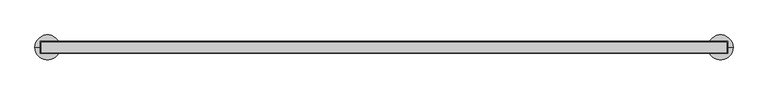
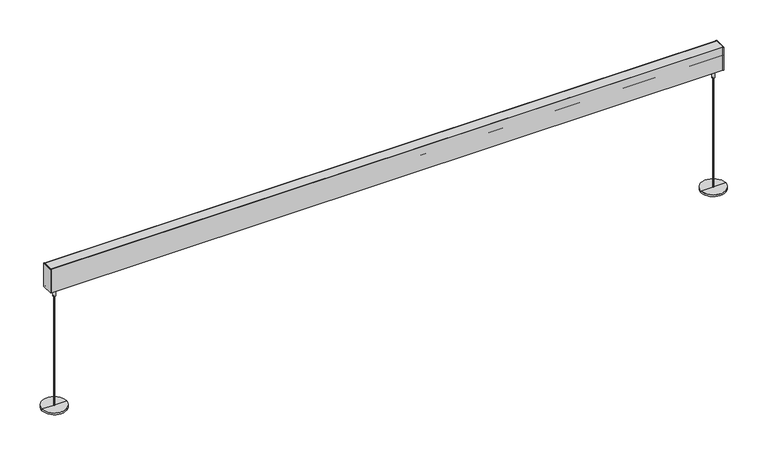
"""IFC4 building model written with IfcOpenShell, lengths in millimetres: light fixture geometry, Lighting_Fixture-Focal_Point-AirCore_Bridge-Seem_1_LED : FSM1SBW125LF30K1CUNVLD1J24_."""

from ifc_helpers import new_model, si_unit, frame, origin, place, context, project, spatial, polyline, circle_curve, outline, extrude, faceted_brep, source, transform, mapped, element, save
from ifc_brep_helpers import plane_surface, cylinder_surface, advanced_brep


def light_fixture_63af7253(model_context):
    return source(origin(), model_context, "Body", "SolidModel", [
        advanced_brep(
        [(1195.9602631, 0.0, 6.35), (1191.6397369, 0.0, 6.35), (1191.6397369, 0.0, 426.1929436), (1195.9602631, 0.0, 426.1929436), (1198.4304584, 0.0, 464.8870305), (1189.1695416, 0.0, 464.8870305), (1193.8, 0.0, 464.8870305), (1198.4304584, 0.0, 426.1929436), (1189.1695416, 0.0, 426.1929436), (1238.25, 0.0, 6.35), (1149.35, 0.0, 6.35), (1238.25, 0.0, 0.0), (1149.35, 0.0, 0.0), (1193.8, 0.0, 0.0)],
        [
            (0, 1, circle_curve(frame((1193.8, 0.0, 6.35), z_axis=(0.0, 0.0, 1.0), x_axis=(-1.0, 0.0, 0.0)), 2.1602631)),
            (1, 2),
            (2, 3, circle_curve(frame((1193.8, 0.0, 426.1929436), z_axis=(0.0, 0.0, -1.0), x_axis=(-1.0, 0.0, 0.0)), 2.1602631)),
            (3, 0),
            (1, 0, circle_curve(frame((1193.8, 0.0, 6.35), z_axis=(0.0, 0.0, 1.0), x_axis=(-1.0, 0.0, 0.0)), 2.1602631)),
            (3, 2, circle_curve(frame((1193.8, 0.0, 426.1929436), z_axis=(0.0, 0.0, -1.0), x_axis=(-1.0, 0.0, 0.0)), 2.1602631)),
            (4, 5, circle_curve(frame((1193.8, 0.0, 464.8870305), z_axis=(0.0, 0.0, 1.0), x_axis=(-1.0, 0.0, 0.0)), 4.6304584)),
            (5, 6),
            (6, 4),
            (5, 4, circle_curve(frame((1193.8, 0.0, 464.8870305), z_axis=(0.0, 0.0, 1.0), x_axis=(-1.0, 0.0, 0.0)), 4.6304584)),
            (7, 8, circle_curve(frame((1193.8, 0.0, 426.1929436), z_axis=(0.0, 0.0, 1.0), x_axis=(-1.0, 0.0, 0.0)), 4.6304584)),
            (8, 5),
            (4, 7),
            (8, 7, circle_curve(frame((1193.8, 0.0, 426.1929436), z_axis=(0.0, 0.0, 1.0), x_axis=(-1.0, 0.0, 0.0)), 4.6304584)),
            (2, 8),
            (7, 3),
            (9, 10, circle_curve(frame((1193.8, 0.0, 6.35), z_axis=(0.0, 0.0, 1.0), x_axis=(-1.0, 0.0, 0.0)), 44.45)),
            (10, 1),
            (0, 9),
            (10, 9, circle_curve(frame((1193.8, 0.0, 6.35), z_axis=(0.0, 0.0, 1.0), x_axis=(-1.0, 0.0, 0.0)), 44.45)),
            (11, 12, circle_curve(frame((1193.8, 0.0, 0.0), z_axis=(0.0, 0.0, 1.0), x_axis=(-1.0, 0.0, 0.0)), 44.45)),
            (12, 10),
            (9, 11),
            (12, 11, circle_curve(frame((1193.8, 0.0, 0.0), z_axis=(0.0, 0.0, 1.0), x_axis=(-1.0, 0.0, 0.0)), 44.45)),
            (13, 12),
            (11, 13),
        ],
        [
            cylinder_surface(frame((1193.8, 0.0, 861.1679436), z_axis=(0.0, 0.0, -1.0), x_axis=(-1.0, 0.0, 0.0)), 2.1602631),
            plane_surface(frame((1193.8, 0.0, 464.8870305), z_axis=(0.0, 0.0, 1.0), x_axis=(-1.0, 0.0, 0.0))),
            cylinder_surface(frame((1193.8, 0.0, 861.1679436), z_axis=(0.0, 0.0, -1.0), x_axis=(-1.0, 0.0, 0.0)), 4.6304584),
            plane_surface(frame((1193.8, 0.0, 426.1929436), z_axis=(0.0, 0.0, -1.0), x_axis=(-1.0, 0.0, 0.0))),
            plane_surface(frame((1193.8, 0.0, 6.35), z_axis=(0.0, 0.0, 1.0), x_axis=(-1.0, 0.0, 0.0))),
            cylinder_surface(frame((1193.8, 0.0, 861.1679436), z_axis=(0.0, 0.0, -1.0), x_axis=(-1.0, 0.0, 0.0)), 44.45),
            plane_surface(frame((1193.8, 0.0, 0.0), z_axis=(0.0, 0.0, -1.0), x_axis=(-1.0, 0.0, 0.0))),
        ],
        [
            (0, [[1, 2, 3, 4]]),
            (0, [[5, -4, 6, -2]]),
            (1, [[7, 8, 9]]),
            (1, [[10, -9, -8]]),
            (2, [[11, 12, -7, 13]]),
            (2, [[14, -13, -10, -12]]),
            (3, [[-3, 15, -11, 16]]),
            (3, [[-6, -16, -14, -15]]),
            (4, [[17, 18, -1, 19]]),
            (4, [[20, -19, -5, -18]]),
            (5, [[21, 22, -17, 23]]),
            (5, [[24, -23, -20, -22]]),
            (6, [[25, -21, 26]]),
            (6, [[-26, -24, -25]]),
        ],
    ),
        faceted_brep([(-1216.5759239, 18.258255, 531.2980748), (-1216.5759239, 15.7110021, 527.9177561), (-1216.5759239, 14.4431682, 528.8731375), (-1216.5759239, 17.0442657, 532.3249104), (-1216.5759239, 13.8854155, 534.1486734), (-1216.5759239, 16.1364037, 540.0126981), (-1216.5759239, 17.464505, 540.0126981), (-1216.5759239, 17.464505, 541.8092414), (-1216.5759239, -17.464505, 541.8092414), (-1216.5759239, -17.464505, 540.0126981), (-1216.5759239, -16.1364037, 540.0126981), (-1216.5759239, -13.8854155, 534.1486734), (-1216.5759239, -17.0442657, 532.3249104), (-1216.5759239, -14.4431682, 528.8731375), (-1216.5759239, -15.7024761, 527.9241809), (-1216.5759239, -18.258255, 531.315814), (-1216.5759239, -18.258255, 533.4571004), (-1216.5759239, -15.8533687, 534.8455621), (-1216.5759239, -17.2274622, 538.4251981), (-1216.5759239, -19.052005, 538.4251981), (-1216.5759239, -19.052005, 546.1), (-1216.5759239, 19.052005, 546.1), (-1216.5759239, 19.052005, 538.4251981), (-1216.5759239, 17.2274622, 538.4251981), (-1216.5759239, 15.8533687, 534.8455621), (-1216.5759239, 18.258255, 533.4571004), (1216.5759239, 18.258255, 531.2980748), (1216.5759239, 18.258255, 533.4571004), (1216.5759239, 15.8533687, 534.8455621), (1216.5759239, 17.2274622, 538.4251981), (1216.5759239, 19.052005, 538.4251981), (1216.5759239, 19.052005, 546.1), (1216.5759239, -19.052005, 546.1), (1216.5759239, -19.052005, 538.4251981), (1216.5759239, -17.2274622, 538.4251981), (1216.5759239, -15.8533687, 534.8455621), (1216.5759239, -18.258255, 533.4571004), (1216.5759239, -18.258255, 531.315814), (1216.5759239, -15.7024761, 527.9241809), (1216.5759239, -14.4431682, 528.8731375), (1216.5759239, -17.0442657, 532.3249104), (1216.5759239, -13.8854155, 534.1486734), (1216.5759239, -16.1364037, 540.0126981), (1216.5759239, -17.464505, 540.0126981), (1216.5759239, -17.464505, 541.8092414), (1216.5759239, 17.464505, 541.8092414), (1216.5759239, 17.464505, 540.0126981), (1216.5759239, 16.1364037, 540.0126981), (1216.5759239, 13.8854155, 534.1486734), (1216.5759239, 17.0442657, 532.3249104), (1216.5759239, 14.4431682, 528.8731375), (1216.5759239, 15.7110021, 527.9177561), (1214.9726379, 17.464505, 541.8092414), (1214.9726379, 17.464505, 544.5125), (-1214.9726379, 17.464505, 544.5125), (-1214.9726379, 17.464505, 541.8092414), (1214.9726379, -17.464505, 544.5125), (-1214.9726379, -17.464505, 544.5125), (-1214.9726379, -17.464505, 541.8092414), (1214.9726379, -17.464505, 541.8092414), (1214.9726379, -19.052005, 546.1), (-1214.9726379, -19.052005, 546.1), (1214.9726379, 19.052005, 546.1), (-1214.9726379, 19.052005, 546.1)], [[[0, 1, 2, 3, 4, 5, 6, 7, 8, 9, 10, 11, 12, 13, 14, 15, 16, 17, 18, 19, 20, 21, 22, 23, 24, 25]], [[26, 27, 28, 29, 30, 31, 32, 33, 34, 35, 36, 37, 38, 39, 40, 41, 42, 43, 44, 45, 46, 47, 48, 49, 50, 51]], [[1, 0, 26, 51]], [[2, 1, 51, 50]], [[3, 2, 50, 49]], [[4, 3, 49, 48]], [[5, 4, 48, 47]], [[6, 5, 47, 46]], [[6, 46, 45, 52, 53, 54, 55, 7]], [[54, 53, 56, 57]], [[43, 9, 8, 58, 57, 56, 59, 44]], [[10, 9, 43, 42]], [[11, 10, 42, 41]], [[12, 11, 41, 40]], [[13, 12, 40, 39]], [[14, 13, 39, 38]], [[15, 14, 38, 37]], [[16, 15, 37, 36]], [[17, 16, 36, 35]], [[18, 17, 35, 34]], [[19, 18, 34, 33]], [[20, 19, 33, 32, 60, 61]], [[21, 20, 61, 60, 32, 31, 62, 63]], [[31, 30, 22, 21, 63, 62]], [[23, 22, 30, 29]], [[24, 23, 29, 28]], [[25, 24, 28, 27]], [[0, 25, 27, 26]], [[8, 7, 55, 58]], [[45, 44, 59, 52]], [[58, 55, 54, 57]], [[52, 59, 56, 53]]]),
        extrude(outline(polyline([(1219.2, 21.2328125), (1219.2, -21.2328125), (1216.5759239, -21.2328125), (1216.5759239, 21.2328125), (1219.2, 21.2328125)])), frame((0.0, 0.0, 457.2), z_axis=(0.0, 0.0, 1.0), x_axis=(1.0, 0.0, 0.0)), (0.0, 0.0, 1.0), 88.9),
        extrude(outline(polyline([(-1219.2, 21.2328125), (-1216.5759239, 21.2328125), (-1216.5759239, -21.2328125), (-1219.2, -21.2328125), (-1219.2, 21.2328125)])), frame((0.0, 0.0, 457.2), z_axis=(0.0, 0.0, 1.0), x_axis=(1.0, 0.0, 0.0)), (0.0, 0.0, 1.0), 88.9),
        extrude(outline(polyline([(21.2328125, 546.1), (21.2328125, 457.2), (19.5658437, 457.2), (16.6238378, 459.2821699), (17.4679179, 460.4748144), (19.1530671, 459.2821699), (19.1530671, 462.8558491), (-19.1530671, 462.8558491), (-19.1530671, 459.2821699), (-17.4679179, 460.4748144), (-16.6238378, 459.2821699), (-19.5658437, 457.2), (-21.2328125, 457.2), (-21.2328125, 546.1), (-19.052005, 546.1), (-19.052005, 514.8378262), (-13.3446628, 512.0541694), (-16.5752011, 505.4305842), (-19.052005, 505.4305842), (-19.052005, 466.4340085), (-17.489624, 465.1230152), (-11.6590079, 465.1230152), (-11.6590079, 470.2953899), (-10.1171022, 471.8372956), (-6.1086881, 471.8372956), (-4.5777065, 470.306314), (-4.5777065, 465.1230152), (-1.2903926, 465.1230152), (-1.2903926, 471.5573244), (1.2903926, 471.5573244), (1.2903926, 465.1230152), (4.5777065, 465.1230152), (4.5777065, 470.306314), (6.1086881, 471.8372956), (10.1171022, 471.8372956), (11.6590079, 470.2953899), (11.6590079, 465.1230152), (17.489624, 465.1230152), (19.052005, 466.4340085), (19.052005, 505.4305842), (16.5752011, 505.4305842), (13.3446628, 512.0541694), (19.052005, 514.8378262), (19.052005, 546.1), (21.2328125, 546.1)])), frame((-1216.5759239, 0.0, 0.0), z_axis=(1.0, 0.0, 0.0), x_axis=(0.0, 1.0, 0.0)), (0.0, 0.0, 1.0), 2433.1518478),
        extrude(outline(polyline([(16.2455373, 534.6191435), (17.7983995, 537.3087796), (18.4858071, 536.9119046), (17.32982, 534.9096761), (19.052005, 533.9153722), (19.052005, 514.8378262), (13.3446628, 512.0541694), (-13.3446628, 512.0541694), (-19.052005, 514.8378262), (-19.052005, 533.9153722), (-17.32982, 534.9096761), (-18.4858071, 536.9119046), (-17.7983995, 537.3087796), (-16.2455373, 534.6191435), (-18.258255, 533.4571004), (-18.258255, 515.3338163), (-13.1614111, 512.8479194), (13.1614111, 512.8479194), (18.258255, 515.3338163), (18.258255, 533.4571004), (16.2455373, 534.6191435)])), frame((-1216.5759239, 0.0, 0.0), z_axis=(1.0, 0.0, 0.0), x_axis=(0.0, 1.0, 0.0)), (0.0, 0.0, 1.0), 2433.1518478),
        advanced_brep(
        [(-1191.6397369, 0.0, 6.35), (-1195.9602631, 0.0, 6.35), (-1195.9602631, 0.0, 426.1929436), (-1191.6397369, 0.0, 426.1929436), (-1189.1695416, 0.0, 464.8870305), (-1198.4304584, 0.0, 464.8870305), (-1193.8, 0.0, 464.8870305), (-1189.1695416, 0.0, 426.1929436), (-1198.4304584, 0.0, 426.1929436), (-1149.35, 0.0, 6.35), (-1238.25, 0.0, 6.35), (-1149.35, 0.0, 0.0), (-1238.25, 0.0, 0.0), (-1193.8, 0.0, 0.0)],
        [
            (0, 1, circle_curve(frame((-1193.8, 0.0, 6.35), z_axis=(0.0, 0.0, 1.0), x_axis=(-1.0, 0.0, 0.0)), 2.1602631)),
            (1, 2),
            (2, 3, circle_curve(frame((-1193.8, 0.0, 426.1929436), z_axis=(0.0, 0.0, -1.0), x_axis=(-1.0, 0.0, 0.0)), 2.1602631)),
            (3, 0),
            (1, 0, circle_curve(frame((-1193.8, 0.0, 6.35), z_axis=(0.0, 0.0, 1.0), x_axis=(-1.0, 0.0, 0.0)), 2.1602631)),
            (3, 2, circle_curve(frame((-1193.8, 0.0, 426.1929436), z_axis=(0.0, 0.0, -1.0), x_axis=(-1.0, 0.0, 0.0)), 2.1602631)),
            (4, 5, circle_curve(frame((-1193.8, 0.0, 464.8870305), z_axis=(0.0, 0.0, 1.0), x_axis=(-1.0, 0.0, 0.0)), 4.6304584)),
            (5, 6),
            (6, 4),
            (5, 4, circle_curve(frame((-1193.8, 0.0, 464.8870305), z_axis=(0.0, 0.0, 1.0), x_axis=(-1.0, 0.0, 0.0)), 4.6304584)),
            (7, 8, circle_curve(frame((-1193.8, 0.0, 426.1929436), z_axis=(0.0, 0.0, 1.0), x_axis=(-1.0, 0.0, 0.0)), 4.6304584)),
            (8, 5),
            (4, 7),
            (8, 7, circle_curve(frame((-1193.8, 0.0, 426.1929436), z_axis=(0.0, 0.0, 1.0), x_axis=(-1.0, 0.0, 0.0)), 4.6304584)),
            (2, 8),
            (7, 3),
            (9, 10, circle_curve(frame((-1193.8, 0.0, 6.35), z_axis=(0.0, 0.0, 1.0), x_axis=(-1.0, 0.0, 0.0)), 44.45)),
            (10, 1),
            (0, 9),
            (10, 9, circle_curve(frame((-1193.8, 0.0, 6.35), z_axis=(0.0, 0.0, 1.0), x_axis=(-1.0, 0.0, 0.0)), 44.45)),
            (11, 12, circle_curve(frame((-1193.8, 0.0, 0.0), z_axis=(0.0, 0.0, 1.0), x_axis=(-1.0, 0.0, 0.0)), 44.45)),
            (12, 10),
            (9, 11),
            (12, 11, circle_curve(frame((-1193.8, 0.0, 0.0), z_axis=(0.0, 0.0, 1.0), x_axis=(-1.0, 0.0, 0.0)), 44.45)),
            (13, 12),
            (11, 13),
        ],
        [
            cylinder_surface(frame((-1193.8, 0.0, 861.1679436), z_axis=(0.0, 0.0, -1.0), x_axis=(-1.0, 0.0, 0.0)), 2.1602631),
            plane_surface(frame((-1193.8, 0.0, 464.8870305), z_axis=(0.0, 0.0, 1.0), x_axis=(-1.0, 0.0, 0.0))),
            cylinder_surface(frame((-1193.8, 0.0, 861.1679436), z_axis=(0.0, 0.0, -1.0), x_axis=(-1.0, 0.0, 0.0)), 4.6304584),
            plane_surface(frame((-1193.8, 0.0, 426.1929436), z_axis=(0.0, 0.0, -1.0), x_axis=(-1.0, 0.0, 0.0))),
            plane_surface(frame((-1193.8, 0.0, 6.35), z_axis=(0.0, 0.0, 1.0), x_axis=(-1.0, 0.0, 0.0))),
            cylinder_surface(frame((-1193.8, 0.0, 861.1679436), z_axis=(0.0, 0.0, -1.0), x_axis=(-1.0, 0.0, 0.0)), 44.45),
            plane_surface(frame((-1193.8, 0.0, 0.0), z_axis=(0.0, 0.0, -1.0), x_axis=(-1.0, 0.0, 0.0))),
        ],
        [
            (0, [[1, 2, 3, 4]]),
            (0, [[5, -4, 6, -2]]),
            (1, [[7, 8, 9]]),
            (1, [[10, -9, -8]]),
            (2, [[11, 12, -7, 13]]),
            (2, [[14, -13, -10, -12]]),
            (3, [[-3, 15, -11, 16]]),
            (3, [[-6, -16, -14, -15]]),
            (4, [[17, 18, -1, 19]]),
            (4, [[20, -19, -5, -18]]),
            (5, [[21, 22, -17, 23]]),
            (5, [[24, -23, -20, -22]]),
            (6, [[25, -21, 26]]),
            (6, [[-26, -24, -25]]),
        ],
    ),
    ])


if __name__ == "__main__":
    model = new_model("IFC4")
    model_context = context("Model", 3, world=origin())
    ifc_project = project(units=[si_unit("LENGTHUNIT", "METRE", prefix="MILLI")], contexts=[model_context])
    site = spatial("IfcSite", under=ifc_project)
    building = spatial("IfcBuilding", under=site)
    placement = place(None, origin())
    light_fixture_shape = light_fixture_63af7253(model_context)
    element("IfcLightFixture", 1, ObjectType="Lighting_Fixture-Focal_Point-AirCore_Bridge-Seem_1_LED : FSM1SBW125LF30K1CUNVLD1J24_", at=placement, inside=building, context=model_context, shape_type="MappedRepresentation", body=[
        mapped(light_fixture_shape, transform((0.0, 0.0, 0.0), x_axis=(1.0, 0.0, 0.0), y_axis=(0.0, 1.0, 0.0), z_axis=(0.0, 0.0, 1.0))),
    ])
    save(model, "model.ifc")
